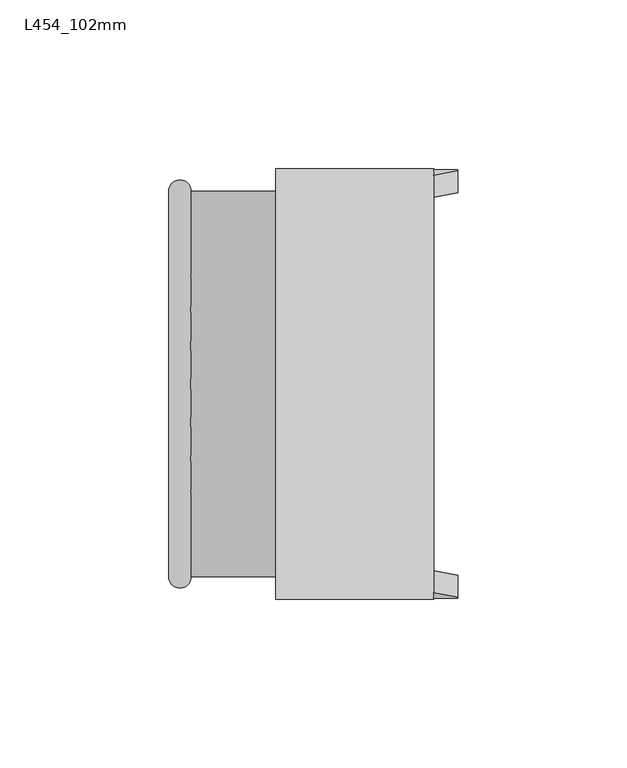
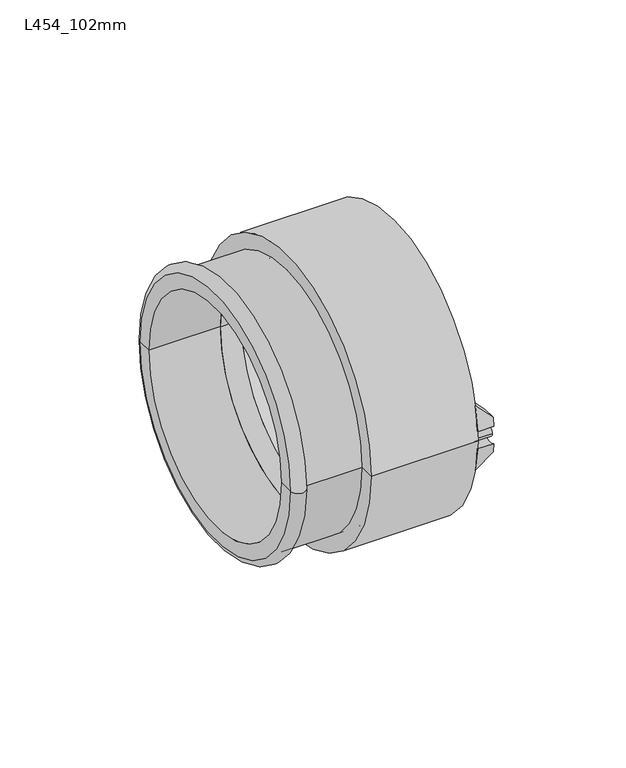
"""IFC4 building model written with IfcOpenShell, lengths in millimetres: pipe fitting geometry, Durapipe_PipeFitting_VulcatheneEnfusion_GlassAdaptor_L45 : L454_102mm."""

from ifc_helpers import new_model, si_unit, point, frame, frame_2d, origin, place, context, project, spatial, polyline, circle_curve, ellipse_curve, trimmed, segment, composite_curve, outline, extrude, source, transform, mapped, element, save
from ifc_brep_helpers import plane_surface, cylinder_surface, revolved_surface, advanced_brep


def l454_102mm_f763a294(model_context):
    return source(origin(), model_context, "Body", "SolidModel", [
        advanced_brep(
        [(46.4, -57.1766484, -3.7577755), (46.4, -63.5266484, -3.9607376), (46.4, -63.1528218, -7.94), (46.4, -56.7472149, -7.94), (39.3, -61.8572752, -15.0), (39.3, -63.5266484, -3.9607376), (39.3, -57.1766484, -3.7577755), (39.3, -55.3018083, -15.0)],
        [
            (0, 1, circle_curve(frame((46.4, -60.475, 0.0), z_axis=(-1.0, 0.0, 0.0), x_axis=(0.0, 1.0, 0.0)), 5.0)),
            (1, 2, circle_curve(frame((46.4, 0.0, 0.0), z_axis=(1.0, 0.0, 0.0), x_axis=(0.0, 1.0, 0.0)), 63.65)),
            (2, 3),
            (3, 0, circle_curve(frame((46.4, 0.0, 0.0), z_axis=(-1.0, 0.0, 0.0), x_axis=(0.0, 1.0, 0.0)), 57.3)),
            (4, 5, circle_curve(frame((39.3, 0.0, 0.0), z_axis=(-1.0, 0.0, 0.0), x_axis=(0.0, 1.0, 0.0)), 63.65)),
            (5, 6, circle_curve(frame((39.3, -60.475, 0.0), z_axis=(1.0, 0.0, 0.0), x_axis=(0.0, 1.0, 0.0)), 5.0)),
            (6, 7, circle_curve(frame((39.3, 0.0, 0.0), z_axis=(1.0, 0.0, 0.0), x_axis=(0.0, 1.0, 0.0)), 57.3)),
            (7, 4),
            (6, 0),
            (3, 7, ellipse_curve(frame((54.3849858, 0.0, 0.0), z_axis=(0.705106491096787, 0.0, -0.7091014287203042), x_axis=(-0.7091014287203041, 0.0, -0.705106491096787)), 81.2643207, 57.3)),
            (4, 2, ellipse_curve(frame((54.3849858, 0.0, 0.0), z_axis=(-0.705106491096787, 0.0, 0.7091014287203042), x_axis=(0.7091014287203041, 0.0, 0.705106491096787)), 90.2700525, 63.65)),
            (1, 5),
        ],
        [
            plane_surface(frame((46.4, -61.8572752, -15.0), z_axis=(1.0, 0.0, 0.0), x_axis=(0.0, 1.0, 0.0))),
            plane_surface(frame((39.3, -61.8572752, -15.0), z_axis=(-1.0, 0.0, 0.0), x_axis=(0.0, -1.0, 0.0))),
            revolved_surface(polyline([(-3.239660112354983, 57.3, 0.0), (112.00963171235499, 57.3, 0.0)]), (39.3, 0.0, 0.0), (-1.0, 0.0, 0.0)),
            cylinder_surface(frame((39.3, 0.0, 0.0), z_axis=(1.0, 0.0, 0.0), x_axis=(0.0, 1.0, 0.0)), 63.65),
            revolved_surface(polyline([(46.4, -55.475, 0.0), (39.3, -55.475, 0.0)]), (39.3, -60.475, 0.0), (1.0, 0.0, 0.0)),
            plane_surface(frame((39.3, 63.65, -15.0), z_axis=(0.705106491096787, 0.0, -0.7091014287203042), x_axis=(0.0, -1.0, 0.0))),
        ],
        [
            (0, [[1, 2, 3, 4]]),
            (1, [[5, 6, 7, 8]]),
            (2, [[-7, 9, -4, 10]]),
            (3, [[-5, 11, -2, 12]]),
            (4, [[-1, -9, -6, -12]]),
            (5, [[-3, -11, -8, -10]]),
        ],
    ),
        advanced_brep(
        [(46.4, -63.5266484, 3.9607376), (46.4, -57.1766484, 3.7577755), (46.4, -56.7472149, 7.94), (46.4, -63.1528218, 7.94), (39.3, -63.5266484, 3.9607376), (39.3, -61.8572752, 15.0), (39.3, -55.3018083, 15.0), (39.3, -57.1766484, 3.7577755)],
        [
            (0, 1, circle_curve(frame((46.4, -60.475, 0.0), z_axis=(-1.0, 0.0, 0.0), x_axis=(0.0, 1.0, 0.0)), 5.0)),
            (1, 2, circle_curve(frame((46.4, 0.0, 0.0), z_axis=(-1.0, 0.0, 0.0), x_axis=(0.0, 1.0, 0.0)), 57.3)),
            (2, 3),
            (3, 0, circle_curve(frame((46.4, 0.0, 0.0), z_axis=(1.0, 0.0, 0.0), x_axis=(0.0, 1.0, 0.0)), 63.65)),
            (4, 5, circle_curve(frame((39.3, 0.0, 0.0), z_axis=(-1.0, 0.0, 0.0), x_axis=(0.0, 1.0, 0.0)), 63.65)),
            (5, 6),
            (6, 7, circle_curve(frame((39.3, 0.0, 0.0), z_axis=(1.0, 0.0, 0.0), x_axis=(0.0, 1.0, 0.0)), 57.3)),
            (7, 4, circle_curve(frame((39.3, -60.475, 0.0), z_axis=(1.0, 0.0, 0.0), x_axis=(0.0, 1.0, 0.0)), 5.0)),
            (6, 2, ellipse_curve(frame((54.3849858, 0.0, 0.0), z_axis=(0.7051064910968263, 0.0, 0.7091014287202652), x_axis=(-0.7091014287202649, 0.0, 0.7051064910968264)), 81.2643207, 57.3)),
            (1, 7),
            (4, 0),
            (3, 5, ellipse_curve(frame((54.3849858, 0.0, 0.0), z_axis=(-0.7051064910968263, 0.0, -0.7091014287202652), x_axis=(0.7091014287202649, 0.0, -0.7051064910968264)), 90.2700525, 63.65)),
        ],
        [
            plane_surface(frame((46.4, -61.8572752, -15.0), z_axis=(1.0, 0.0, 0.0), x_axis=(0.0, 1.0, 0.0))),
            plane_surface(frame((39.3, -61.8572752, -15.0), z_axis=(-1.0, 0.0, 0.0), x_axis=(0.0, -1.0, 0.0))),
            revolved_surface(polyline([(-3.2396601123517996, 57.3, 0.0), (112.0096317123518, 57.3, 0.0)]), (39.3, 0.0, 0.0), (-1.0, 0.0, 0.0)),
            cylinder_surface(frame((39.3, 0.0, 0.0), z_axis=(1.0, 0.0, 0.0), x_axis=(0.0, 1.0, 0.0)), 63.65),
            revolved_surface(polyline([(46.4, -55.475, 0.0), (39.3, -55.475, 0.0)]), (39.3, -60.475, 0.0), (1.0, 0.0, 0.0)),
            plane_surface(frame((46.4, 63.65, 7.94), z_axis=(0.7051064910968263, 0.0, 0.7091014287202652), x_axis=(0.0, -1.0, 0.0))),
        ],
        [
            (0, [[1, 2, 3, 4]]),
            (1, [[5, 6, 7, 8]]),
            (2, [[-7, 9, -2, 10]]),
            (3, [[-5, 11, -4, 12]]),
            (4, [[-1, -11, -8, -10]]),
            (5, [[-3, -9, -6, -12]]),
        ],
    ),
        advanced_brep(
        [(46.4, 63.5266484, -3.9607376), (46.4, 57.1766484, -3.7577755), (46.4, 56.7472149, -7.94), (46.4, 63.1528218, -7.94), (39.3, 63.5266484, -3.9607376), (39.3, 61.8572752, -15.0), (39.3, 55.3018083, -15.0), (39.3, 57.1766484, -3.7577755)],
        [
            (0, 1, circle_curve(frame((46.4, 60.475, 0.0), z_axis=(-1.0, 0.0, 0.0), x_axis=(0.0, 1.0, 0.0)), 5.0)),
            (1, 2, circle_curve(frame((46.4, 0.0, 0.0), z_axis=(-1.0, 0.0, 0.0), x_axis=(0.0, 1.0, 0.0)), 57.3)),
            (2, 3),
            (3, 0, circle_curve(frame((46.4, 0.0, 0.0), z_axis=(1.0, 0.0, 0.0), x_axis=(0.0, 1.0, 0.0)), 63.65)),
            (4, 5, circle_curve(frame((39.3, 0.0, 0.0), z_axis=(-1.0, 0.0, 0.0), x_axis=(0.0, 1.0, 0.0)), 63.65)),
            (5, 6),
            (6, 7, circle_curve(frame((39.3, 0.0, 0.0), z_axis=(1.0, 0.0, 0.0), x_axis=(0.0, 1.0, 0.0)), 57.3)),
            (7, 4, circle_curve(frame((39.3, 60.475, 0.0), z_axis=(1.0, 0.0, 0.0), x_axis=(0.0, 1.0, 0.0)), 5.0)),
            (6, 2, ellipse_curve(frame((54.3849858, 0.0, 0.0), z_axis=(0.705106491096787, 0.0, -0.7091014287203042), x_axis=(-0.7091014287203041, 0.0, -0.705106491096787)), 81.2643207, 57.3)),
            (1, 7),
            (4, 0),
            (3, 5, ellipse_curve(frame((54.3849858, 0.0, 0.0), z_axis=(-0.705106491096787, 0.0, 0.7091014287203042), x_axis=(0.7091014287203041, 0.0, 0.705106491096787)), 90.2700525, 63.65)),
        ],
        [
            plane_surface(frame((46.4, -61.8572752, -15.0), z_axis=(1.0, 0.0, 0.0), x_axis=(0.0, 1.0, 0.0))),
            plane_surface(frame((39.3, -61.8572752, -15.0), z_axis=(-1.0, 0.0, 0.0), x_axis=(0.0, -1.0, 0.0))),
            revolved_surface(polyline([(-3.239660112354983, 57.3, 0.0), (112.00963171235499, 57.3, 0.0)]), (39.3, 0.0, 0.0), (-1.0, 0.0, 0.0)),
            cylinder_surface(frame((39.3, 0.0, 0.0), z_axis=(1.0, 0.0, 0.0), x_axis=(0.0, 1.0, 0.0)), 63.65),
            revolved_surface(polyline([(46.4, 65.475, 0.0), (39.3, 65.475, 0.0)]), (39.3, 60.475, 0.0), (1.0, 0.0, 0.0)),
            plane_surface(frame((39.3, 63.65, -15.0), z_axis=(0.705106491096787, 0.0, -0.7091014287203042), x_axis=(0.0, -1.0, 0.0))),
        ],
        [
            (0, [[1, 2, 3, 4]]),
            (1, [[5, 6, 7, 8]]),
            (2, [[-7, 9, -2, 10]]),
            (3, [[-5, 11, -4, 12]]),
            (4, [[-1, -11, -8, -10]]),
            (5, [[-3, -9, -6, -12]]),
        ],
    ),
        advanced_brep(
        [(46.4, 57.1766484, 3.7577755), (46.4, 63.5266484, 3.9607376), (46.4, 63.1528218, 7.94), (46.4, 56.7472149, 7.94), (39.3, 61.8572752, 15.0), (39.3, 63.5266484, 3.9607376), (39.3, 57.1766484, 3.7577755), (39.3, 55.3018083, 15.0)],
        [
            (0, 1, circle_curve(frame((46.4, 60.475, 0.0), z_axis=(-1.0, 0.0, 0.0), x_axis=(0.0, 1.0, 0.0)), 5.0)),
            (1, 2, circle_curve(frame((46.4, 0.0, 0.0), z_axis=(1.0, 0.0, 0.0), x_axis=(0.0, 1.0, 0.0)), 63.65)),
            (2, 3),
            (3, 0, circle_curve(frame((46.4, 0.0, 0.0), z_axis=(-1.0, 0.0, 0.0), x_axis=(0.0, 1.0, 0.0)), 57.3)),
            (4, 5, circle_curve(frame((39.3, 0.0, 0.0), z_axis=(-1.0, 0.0, 0.0), x_axis=(0.0, 1.0, 0.0)), 63.65)),
            (5, 6, circle_curve(frame((39.3, 60.475, 0.0), z_axis=(1.0, 0.0, 0.0), x_axis=(0.0, 1.0, 0.0)), 5.0)),
            (6, 7, circle_curve(frame((39.3, 0.0, 0.0), z_axis=(1.0, 0.0, 0.0), x_axis=(0.0, 1.0, 0.0)), 57.3)),
            (7, 4),
            (6, 0),
            (3, 7, ellipse_curve(frame((54.3849858, 0.0, 0.0), z_axis=(0.7051064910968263, 0.0, 0.7091014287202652), x_axis=(-0.7091014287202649, 0.0, 0.7051064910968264)), 81.2643207, 57.3)),
            (4, 2, ellipse_curve(frame((54.3849858, 0.0, 0.0), z_axis=(-0.7051064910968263, 0.0, -0.7091014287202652), x_axis=(0.7091014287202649, 0.0, -0.7051064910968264)), 90.2700525, 63.65)),
            (1, 5),
        ],
        [
            plane_surface(frame((46.4, -61.8572752, -15.0), z_axis=(1.0, 0.0, 0.0), x_axis=(0.0, 1.0, 0.0))),
            plane_surface(frame((39.3, -61.8572752, -15.0), z_axis=(-1.0, 0.0, 0.0), x_axis=(0.0, -1.0, 0.0))),
            revolved_surface(polyline([(-3.2396601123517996, 57.3, 0.0), (112.0096317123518, 57.3, 0.0)]), (39.3, 0.0, 0.0), (-1.0, 0.0, 0.0)),
            cylinder_surface(frame((39.3, 0.0, 0.0), z_axis=(1.0, 0.0, 0.0), x_axis=(0.0, 1.0, 0.0)), 63.65),
            revolved_surface(polyline([(46.4, 65.475, 0.0), (39.3, 65.475, 0.0)]), (39.3, 60.475, 0.0), (1.0, 0.0, 0.0)),
            plane_surface(frame((46.4, 63.65, 7.94), z_axis=(0.7051064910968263, 0.0, 0.7091014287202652), x_axis=(0.0, -1.0, 0.0))),
        ],
        [
            (0, [[1, 2, 3, 4]]),
            (1, [[5, 6, 7, 8]]),
            (2, [[-7, 9, -4, 10]]),
            (3, [[-5, 11, -2, 12]]),
            (4, [[-1, -9, -6, -12]]),
            (5, [[-3, -11, -8, -10]]),
        ],
    ),
        extrude(outline(composite_curve([segment(trimmed(circle_curve(frame_2d((-60.475, 0.0)), 2.0), [point((-62.475, 0.0))], [point((-58.475, 0.0))], False, "CARTESIAN"), True, "CONTINUOUS"), segment(trimmed(circle_curve(frame_2d((-60.475, 0.0)), 2.0), [point((-58.475, 0.0))], [point((-62.475, 0.0))], False, "CARTESIAN"), True, "CONTINUOUS")], self_intersect=False)), frame((39.3, 0.0, 0.0), z_axis=(1.0, 0.0, 0.0), x_axis=(0.0, 1.0, 0.0)), (0.0, 0.0, 1.0), 7.1),
        extrude(outline(composite_curve([segment(trimmed(circle_curve(frame_2d((60.475, 0.0)), 2.0), [point((58.475, 0.0))], [point((62.475, 0.0))], False, "CARTESIAN"), True, "CONTINUOUS"), segment(trimmed(circle_curve(frame_2d((60.475, 0.0)), 2.0), [point((62.475, 0.0))], [point((58.475, 0.0))], False, "CARTESIAN"), True, "CONTINUOUS")], self_intersect=False)), frame((39.3, 0.0, 0.0), z_axis=(1.0, 0.0, 0.0), x_axis=(0.0, 1.0, 0.0)), (0.0, 0.0, 1.0), 7.1),
        advanced_brep(
        [(1.2, -50.75, 0.0), (1.2, 50.75, 0.0), (1.2, 57.15, 0.0), (1.2, -57.15, 0.0), (-7.6, -50.75, 0.0), (-7.6, 50.75, 0.0), (-7.6, -63.8, 0.0), (-7.6, 63.8, 0.0), (39.3, -63.8, 0.0), (39.3, 63.8, 0.0), (39.3, -57.15, 0.0), (39.3, 57.15, 0.0)],
        [
            (0, 1, circle_curve(frame((1.2, 0.0, 0.0), z_axis=(-1.0, 0.0, 0.0), x_axis=(0.0, 1.0, 0.0)), 50.75)),
            (1, 2),
            (2, 3, circle_curve(frame((1.2, 0.0, 0.0), z_axis=(1.0, 0.0, 0.0), x_axis=(0.0, 1.0, 0.0)), 57.15)),
            (3, 0),
            (1, 0, circle_curve(frame((1.2, 0.0, 0.0), z_axis=(-1.0, 0.0, 0.0), x_axis=(0.0, 1.0, 0.0)), 50.75)),
            (3, 2, circle_curve(frame((1.2, 0.0, 0.0), z_axis=(1.0, 0.0, 0.0), x_axis=(0.0, 1.0, 0.0)), 57.15)),
            (4, 5, circle_curve(frame((-7.6, 0.0, 0.0), z_axis=(-1.0, 0.0, 0.0), x_axis=(0.0, 1.0, 0.0)), 50.75)),
            (5, 1),
            (0, 4),
            (5, 4, circle_curve(frame((-7.6, 0.0, 0.0), z_axis=(-1.0, 0.0, 0.0), x_axis=(0.0, 1.0, 0.0)), 50.75)),
            (6, 7, circle_curve(frame((-7.6, 0.0, 0.0), z_axis=(-1.0, 0.0, 0.0), x_axis=(0.0, 1.0, 0.0)), 63.8)),
            (7, 5),
            (4, 6),
            (7, 6, circle_curve(frame((-7.6, 0.0, 0.0), z_axis=(-1.0, 0.0, 0.0), x_axis=(0.0, 1.0, 0.0)), 63.8)),
            (8, 9, circle_curve(frame((39.3, 0.0, 0.0), z_axis=(-1.0, 0.0, 0.0), x_axis=(0.0, 1.0, 0.0)), 63.8)),
            (9, 7),
            (6, 8),
            (9, 8, circle_curve(frame((39.3, 0.0, 0.0), z_axis=(-1.0, 0.0, 0.0), x_axis=(0.0, 1.0, 0.0)), 63.8)),
            (10, 11, circle_curve(frame((39.3, 0.0, 0.0), z_axis=(-1.0, 0.0, 0.0), x_axis=(0.0, 1.0, 0.0)), 57.15)),
            (11, 9),
            (8, 10),
            (11, 10, circle_curve(frame((39.3, 0.0, 0.0), z_axis=(-1.0, 0.0, 0.0), x_axis=(0.0, 1.0, 0.0)), 57.15)),
            (2, 11),
            (10, 3),
        ],
        [
            plane_surface(frame((1.2, 0.0, 0.0), z_axis=(1.0, 0.0, 0.0), x_axis=(0.0, 1.0, 0.0))),
            revolved_surface(polyline([(1.199999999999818, 50.75, 0.0), (-7.599999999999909, 50.75, 0.0)]), (2553.2826241, 0.0, 0.0), (1.0, 0.0, 0.0)),
            plane_surface(frame((-7.6, 0.0, 0.0), z_axis=(-1.0, 0.0, 0.0), x_axis=(0.0, 1.0, 0.0))),
            cylinder_surface(frame((2553.2826241, 0.0, 0.0), z_axis=(1.0, 0.0, 0.0), x_axis=(0.0, 1.0, 0.0)), 63.8),
            plane_surface(frame((39.3, 0.0, 0.0), z_axis=(1.0, 0.0, 0.0), x_axis=(0.0, 1.0, 0.0))),
            revolved_surface(polyline([(39.30000000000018, 57.15, 0.0), (1.199999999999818, 57.15, 0.0)]), (2553.2826241, 0.0, 0.0), (1.0, 0.0, 0.0)),
        ],
        [
            (0, [[1, 2, 3, 4]]),
            (0, [[5, -4, 6, -2]]),
            (1, [[7, 8, -1, 9]]),
            (1, [[10, -9, -5, -8]]),
            (2, [[11, 12, -7, 13]]),
            (2, [[14, -13, -10, -12]]),
            (3, [[15, 16, -11, 17]]),
            (3, [[18, -17, -14, -16]]),
            (4, [[19, 20, -15, 21]]),
            (4, [[22, -21, -18, -20]]),
            (5, [[-3, 23, -19, 24]]),
            (5, [[-6, -24, -22, -23]]),
        ],
    ),
        advanced_brep(
        [(1.2, -57.15, 0.0), (1.2, 57.15, 0.0), (1.2, 50.75, 0.0), (1.2, -50.75, 0.0), (-32.7, -57.15, 0.0), (-32.7, 57.15, 0.0), (-39.3, -50.75, 0.0), (-39.3, 50.75, 0.0), (-39.3, 57.15, 0.0), (-39.3, -57.15, 0.0)],
        [
            (0, 1, circle_curve(frame((1.2, 0.0, 0.0), z_axis=(1.0, 0.0, 0.0), x_axis=(0.0, 1.0, 0.0)), 57.15)),
            (1, 2),
            (2, 3, circle_curve(frame((1.2, 0.0, 0.0), z_axis=(-1.0, 0.0, 0.0), x_axis=(0.0, 1.0, 0.0)), 50.75)),
            (3, 0),
            (1, 0, circle_curve(frame((1.2, 0.0, 0.0), z_axis=(1.0, 0.0, 0.0), x_axis=(0.0, 1.0, 0.0)), 57.15)),
            (3, 2, circle_curve(frame((1.2, 0.0, 0.0), z_axis=(-1.0, 0.0, 0.0), x_axis=(0.0, 1.0, 0.0)), 50.75)),
            (4, 5, circle_curve(frame((-32.7, 0.0, 0.0), z_axis=(1.0, 0.0, 0.0), x_axis=(0.0, 1.0, 0.0)), 57.15)),
            (5, 1),
            (0, 4),
            (5, 4, circle_curve(frame((-32.7, 0.0, 0.0), z_axis=(1.0, 0.0, 0.0), x_axis=(0.0, 1.0, 0.0)), 57.15)),
            (6, 7, circle_curve(frame((-39.3, 0.0, 0.0), z_axis=(1.0, 0.0, 0.0), x_axis=(0.0, 1.0, 0.0)), 50.75)),
            (7, 8),
            (8, 9, circle_curve(frame((-39.3, 0.0, 0.0), z_axis=(-1.0, 0.0, 0.0), x_axis=(0.0, 1.0, 0.0)), 57.15)),
            (9, 6),
            (7, 6, circle_curve(frame((-39.3, 0.0, 0.0), z_axis=(1.0, 0.0, 0.0), x_axis=(0.0, 1.0, 0.0)), 50.75)),
            (9, 8, circle_curve(frame((-39.3, 0.0, 0.0), z_axis=(-1.0, 0.0, 0.0), x_axis=(0.0, 1.0, 0.0)), 57.15)),
            (2, 7),
            (6, 3),
            (8, 5, circle_curve(frame((-36.0, 57.15, 0.0), z_axis=(0.0, 0.0, -1.0), x_axis=(1.0, 0.0, 0.0)), 3.3)),
            (4, 9, circle_curve(frame((-36.0, -57.15, 0.0), z_axis=(0.0, 0.0, -1.0), x_axis=(1.0, 0.0, 0.0)), 3.3)),
        ],
        [
            plane_surface(frame((1.2, 0.0, 0.0), z_axis=(1.0, 0.0, 0.0), x_axis=(0.0, 1.0, 0.0))),
            cylinder_surface(frame((-23.9148603, 0.0, 0.0), z_axis=(-1.0, 0.0, 0.0), x_axis=(0.0, 1.0, 0.0)), 57.15),
            plane_surface(frame((-39.3, 0.0, 0.0), z_axis=(-1.0, 0.0, 0.0), x_axis=(0.0, 1.0, 0.0))),
            revolved_surface(polyline([(-39.3, 50.75, 0.0), (1.1999999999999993, 50.75, 0.0)]), (-23.9148603, 0.0, 0.0), (-1.0, 0.0, 0.0)),
            revolved_surface(trimmed(ellipse_curve(frame((-36.0, 57.15, 0.0), z_axis=(0.0, 0.0, 1.0), x_axis=(1.0, 0.0, 0.0)), 3.3, 3.3), [point((-32.7, 57.15, 0.0))], [point((-39.3, 57.15, 0.0))], True, "CARTESIAN"), (-23.9148603, 0.0, 0.0), (-1.0, 0.0, 0.0)),
        ],
        [
            (0, [[1, 2, 3, 4]]),
            (0, [[5, -4, 6, -2]]),
            (1, [[7, 8, -1, 9]]),
            (1, [[10, -9, -5, -8]]),
            (2, [[11, 12, 13, 14]]),
            (2, [[15, -14, 16, -12]]),
            (3, [[-3, 17, -11, 18]]),
            (3, [[-6, -18, -15, -17]]),
            (4, [[-13, 19, -7, 20]]),
            (4, [[-16, -20, -10, -19]]),
        ],
    ),
    ])


if __name__ == "__main__":
    model = new_model("IFC4")
    model_context = context("Model", 3, world=origin())
    ifc_project = project(units=[si_unit("LENGTHUNIT", "METRE", prefix="MILLI")], contexts=[model_context])
    site = spatial("IfcSite", under=ifc_project)
    building = spatial("IfcBuilding", under=site)
    placement = place(None, origin())
    l454_102mm_shape = l454_102mm_f763a294(model_context)
    element("IfcPipeFitting", 1, ObjectType="Durapipe_PipeFitting_VulcatheneEnfusion_GlassAdaptor_L45 : L454_102mm", at=placement, inside=building, context=model_context, shape_type="MappedRepresentation", body=[
        mapped(l454_102mm_shape, transform((0.0, 0.0, 0.0), x_axis=(1.0, 0.0, 0.0), y_axis=(0.0, 1.0, 0.0), z_axis=(0.0, 0.0, 1.0))),
    ])
    save(model, "model.ifc")
